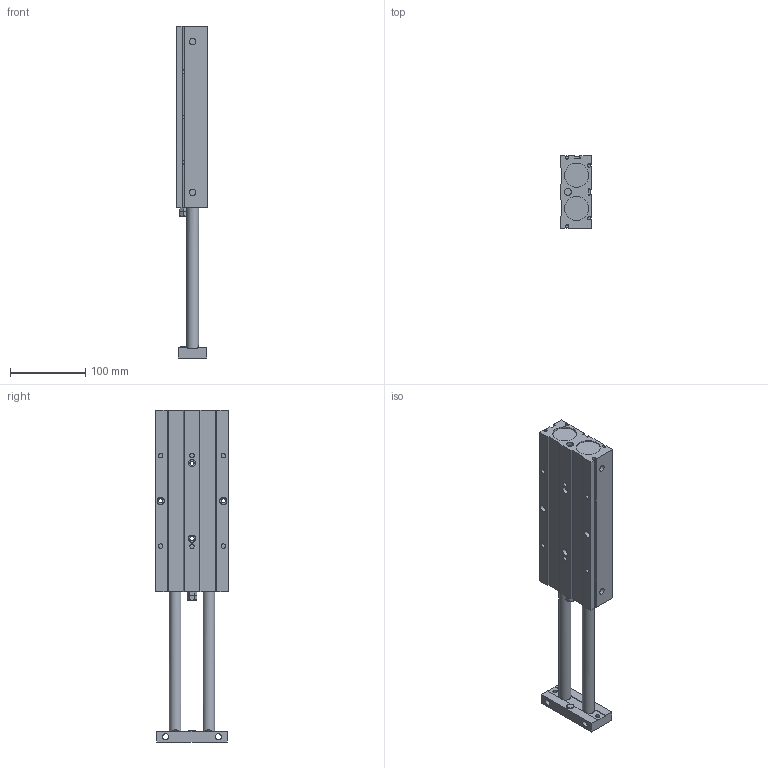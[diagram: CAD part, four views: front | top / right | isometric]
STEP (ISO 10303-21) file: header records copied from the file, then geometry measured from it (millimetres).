
FILE_DESCRIPTION((''),'2;1');
FILE_NAME('I:\3D電子目錄\氣缸\TD\TD32\TD32\TD32x175.stp','2007-08-06T10:23:47',('Administrator'),(''),'Autodesk Inventor 2008','Autodesk Inventor 2008','');
FILE_SCHEMA(('AUTOMOTIVE_DESIGN { 1 0 10303 214 1 1 1 1 }'));
Length unit declared in the file: millimetre
Products named in the file (1): TD32X175
Bounding box: 40.5 x 96 x 440 mm (x, y, z)
Volume: 996045.5 mm3; surface area: 126217.1 mm2
Topology: 1 solids, 3 shells, 186 faces, 458 edges, 304 vertices
Faces by surface type: plane 131, cylinder 42, cone 7, bspline 4, torus 2
Full cylindrical faces by diameter (mm): 5.5 x4, 6 x8, 8 x2, 8.5 x2, 9 x2, 9.5 x8, 12 x2, 13 x2, 14 x2, 16 x2, 32 x4
Entity records: 6063 total; most frequent: CARTESIAN_POINT 1776, DIRECTION 851, ORIENTED_EDGE 802, EDGE_CURVE 401, EDGE_LOOP 297, AXIS2_PLACEMENT_3D 295, VERTEX_POINT 294, VECTOR 261
